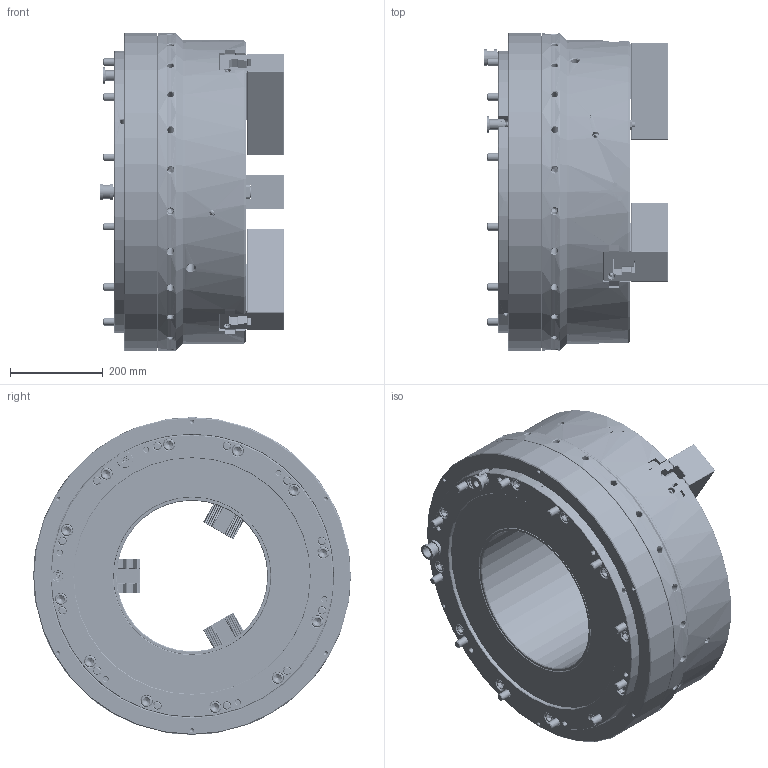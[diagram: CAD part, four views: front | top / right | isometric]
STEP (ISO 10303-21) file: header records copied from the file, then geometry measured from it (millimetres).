
FILE_DESCRIPTION (( 'STEP AP214' ), '1' );
FILE_NAME ('UPR650A325_HOL.STEP', '2025-12-26T00:58:54', ( '' ), ( '' ), 'SwSTEP 2.0', 'SolidWorks 2022', '' );
FILE_SCHEMA (( 'AUTOMOTIVE_DESIGN' ));
Length unit declared in the file: millimetre
Products named in the file (5): 61P446153; 61P858712; UPR650A325_本体; 0030124060; UPR650A325_HOL
Assembly tree (16 placements, depth 2):
  UPR650A325_HOL
    61P858712  x3
    61P446153  x6
    0030124060  x6
    UPR650A325_本体
Bounding box: 396.68 x 685 x 685 mm (x, y, z)
Volume: 75553995.9 mm3; surface area: 3369379.9 mm2
Topology: 17 solids, 36 shells, 11362 faces, 31583 edges, 20642 vertices
Faces by surface type: plane 6082, cylinder 3084, bspline 1045, cone 989, torus 150, sphere 12
Entity records: 333396 total; most frequent: CARTESIAN_POINT 113251, ORIENTED_EDGE 50594, DIRECTION 38193, EDGE_CURVE 25297, VECTOR 16629, LINE 16629, VERTEX_POINT 16589, AXIS2_PLACEMENT_3D 10782
